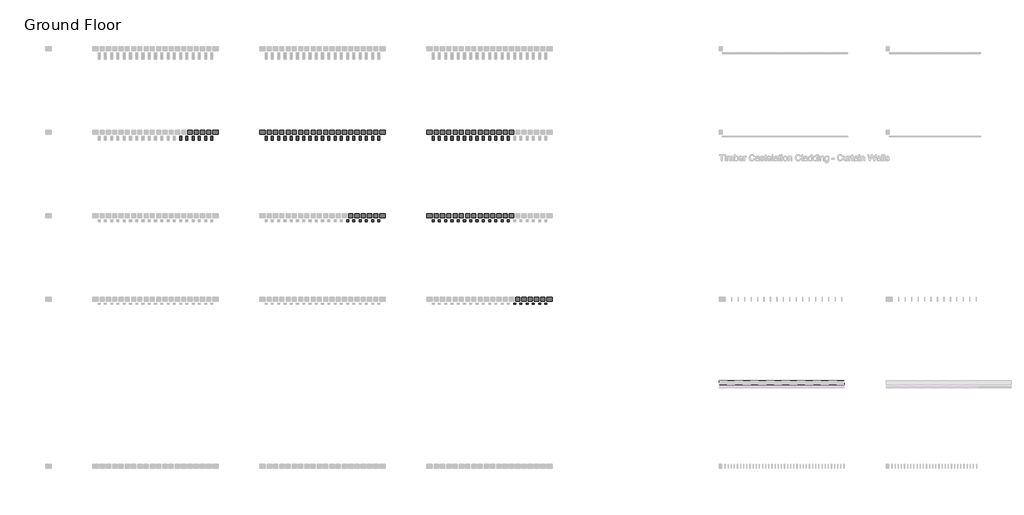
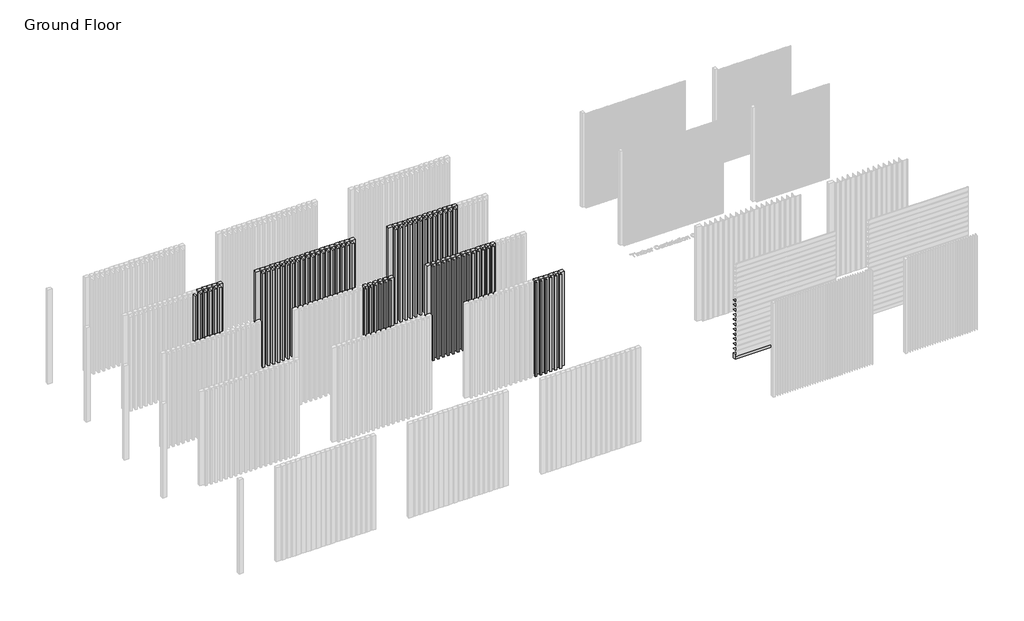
# One storey, part 19 of 350: 77 plates, 63 members.
"""IFC4 building model written with IfcOpenShell, lengths in millimetres."""

from ifc_helpers import new_model, si_unit, origin, place, context, project, spatial, transform, mapped, element, save
from components import rectangular_mullion_1e7650be, rectangular_mullion_e9fc8109, rectangular_mullion_114f6a8f, empty_system_panel_empty_02c6fd44, empty_system_panel_empty_a8601f27, empty_system_panel_empty_23ba90fe, empty_system_panel_empty_02e968fa, empty_system_panel_empty_b4bf5bb1

model = new_model("IFC4")

# Units and contexts
model_context = context("Model", 3, world=origin())
ifc_project = project(units=[si_unit("LENGTHUNIT", "METRE", prefix="MILLI")], contexts=[model_context])

# Site, building, storey
site = spatial("IfcSite", under=ifc_project)
building = spatial("IfcBuilding", under=site)
storey = spatial("IfcBuildingStorey", under=building, Name="Ground Floor", Elevation=0.0)

# Members
placement = place(None, origin())
rectangular_mullion_shape = rectangular_mullion_1e7650be(model_context)
element("IfcMember", 1, ObjectType="Rectangular Mullion : Batten_Aluminium_Modinex_AluBatten_50x50_TasmanianOak", at=placement, inside=storey, context=model_context, shape_type="MappedRepresentation", body=[
    mapped(rectangular_mullion_shape, transform((20016.4361642, 20968.2978302, 0.0), x_axis=(1.0, 0.0, 0.0), y_axis=(0.0, -1.0, 0.0), z_axis=(0.0, 0.0, -1.0))),
])
element("IfcMember", 2, ObjectType="Rectangular Mullion : Batten_Aluminium_Modinex_AluBatten_50x50_TasmanianOak", at=placement, inside=storey, context=model_context, shape_type="MappedRepresentation", body=[
    mapped(rectangular_mullion_shape, transform((20166.4361642, 20968.2978302, 0.0), x_axis=(1.0, 0.0, 0.0), y_axis=(0.0, -1.0, 0.0), z_axis=(0.0, 0.0, -1.0))),
])
element("IfcMember", 3, ObjectType="Rectangular Mullion : Batten_Aluminium_Modinex_AluBatten_50x50_TasmanianOak", at=placement, inside=storey, context=model_context, shape_type="MappedRepresentation", body=[
    mapped(rectangular_mullion_shape, transform((20316.4361642, 20968.2978302, 0.0), x_axis=(1.0, 0.0, 0.0), y_axis=(0.0, -1.0, 0.0), z_axis=(0.0, 0.0, -1.0))),
])
element("IfcMember", 4, ObjectType="Rectangular Mullion : Batten_Aluminium_Modinex_AluBatten_50x50_TasmanianOak", at=placement, inside=storey, context=model_context, shape_type="MappedRepresentation", body=[
    mapped(rectangular_mullion_shape, transform((20466.4361642, 20968.2978302, 0.0), x_axis=(1.0, 0.0, 0.0), y_axis=(0.0, -1.0, 0.0), z_axis=(0.0, 0.0, -1.0))),
])
element("IfcMember", 5, ObjectType="Rectangular Mullion : Batten_Aluminium_Modinex_AluBatten_50x50_TasmanianOak", at=placement, inside=storey, context=model_context, shape_type="MappedRepresentation", body=[
    mapped(rectangular_mullion_shape, transform((20616.4361642, 20968.2978302, 0.0), x_axis=(1.0, 0.0, 0.0), y_axis=(0.0, -1.0, 0.0), z_axis=(0.0, 0.0, -1.0))),
])
element("IfcMember", 6, ObjectType="Rectangular Mullion : Batten_Aluminium_Modinex_AluBatten_50x50_TasmanianOak", at=placement, inside=storey, context=model_context, shape_type="MappedRepresentation", body=[
    mapped(rectangular_mullion_shape, transform((20766.4361642, 20968.2978302, 0.0), x_axis=(1.0, 0.0, 0.0), y_axis=(0.0, -1.0, 0.0), z_axis=(0.0, 0.0, -1.0))),
])
rectangular_mullion_2_shape = rectangular_mullion_e9fc8109(model_context)
element("IfcMember", 7, ObjectType="Rectangular Mullion : Batten_Aluminium_Modinex_AluBatten_50x100_SpottedGum", at=placement, inside=storey, context=model_context, shape_type="MappedRepresentation", body=[
    mapped(rectangular_mullion_2_shape, transform((16016.4361642, 22968.2978302, 0.0), x_axis=(1.0, 0.0, 0.0), y_axis=(0.0, -1.0, 0.0), z_axis=(0.0, 0.0, -1.0))),
])
element("IfcMember", 8, ObjectType="Rectangular Mullion : Batten_Aluminium_Modinex_AluBatten_50x100_SpottedGum", at=placement, inside=storey, context=model_context, shape_type="MappedRepresentation", body=[
    mapped(rectangular_mullion_2_shape, transform((16166.4361642, 22968.2978302, 0.0), x_axis=(1.0, 0.0, 0.0), y_axis=(0.0, -1.0, 0.0), z_axis=(0.0, 0.0, -1.0))),
])
element("IfcMember", 9, ObjectType="Rectangular Mullion : Batten_Aluminium_Modinex_AluBatten_50x100_SpottedGum", at=placement, inside=storey, context=model_context, shape_type="MappedRepresentation", body=[
    mapped(rectangular_mullion_2_shape, transform((16316.4361642, 22968.2978302, 0.0), x_axis=(1.0, 0.0, 0.0), y_axis=(0.0, -1.0, 0.0), z_axis=(0.0, 0.0, -1.0))),
])
element("IfcMember", 10, ObjectType="Rectangular Mullion : Batten_Aluminium_Modinex_AluBatten_50x100_SpottedGum", at=placement, inside=storey, context=model_context, shape_type="MappedRepresentation", body=[
    mapped(rectangular_mullion_2_shape, transform((16466.4361642, 22968.2978302, 0.0), x_axis=(1.0, 0.0, 0.0), y_axis=(0.0, -1.0, 0.0), z_axis=(0.0, 0.0, -1.0))),
])
element("IfcMember", 11, ObjectType="Rectangular Mullion : Batten_Aluminium_Modinex_AluBatten_50x100_SpottedGum", at=placement, inside=storey, context=model_context, shape_type="MappedRepresentation", body=[
    mapped(rectangular_mullion_2_shape, transform((16616.4361642, 22968.2978302, 0.0), x_axis=(1.0, 0.0, 0.0), y_axis=(0.0, -1.0, 0.0), z_axis=(0.0, 0.0, -1.0))),
])
element("IfcMember", 12, ObjectType="Rectangular Mullion : Batten_Aluminium_Modinex_AluBatten_50x100_SpottedGum", at=placement, inside=storey, context=model_context, shape_type="MappedRepresentation", body=[
    mapped(rectangular_mullion_2_shape, transform((16766.4361642, 22968.2978302, 0.0), x_axis=(1.0, 0.0, 0.0), y_axis=(0.0, -1.0, 0.0), z_axis=(0.0, 0.0, -1.0))),
])
element("IfcMember", 13, ObjectType="Rectangular Mullion : Batten_Aluminium_Modinex_AluBatten_50x100_TasmanianOak", at=placement, inside=storey, context=model_context, shape_type="MappedRepresentation", body=[
    mapped(rectangular_mullion_2_shape, transform((18066.4361642, 22968.2978302, 0.0), x_axis=(1.0, 0.0, 0.0), y_axis=(0.0, -1.0, 0.0), z_axis=(0.0, 0.0, -1.0))),
])
element("IfcMember", 14, ObjectType="Rectangular Mullion : Batten_Aluminium_Modinex_AluBatten_50x100_TasmanianOak", at=placement, inside=storey, context=model_context, shape_type="MappedRepresentation", body=[
    mapped(rectangular_mullion_2_shape, transform((18216.4361642, 22968.2978302, 0.0), x_axis=(1.0, 0.0, 0.0), y_axis=(0.0, -1.0, 0.0), z_axis=(0.0, 0.0, -1.0))),
])
element("IfcMember", 15, ObjectType="Rectangular Mullion : Batten_Aluminium_Modinex_AluBatten_50x100_TasmanianOak", at=placement, inside=storey, context=model_context, shape_type="MappedRepresentation", body=[
    mapped(rectangular_mullion_2_shape, transform((18366.4361642, 22968.2978302, 0.0), x_axis=(1.0, 0.0, 0.0), y_axis=(0.0, -1.0, 0.0), z_axis=(0.0, 0.0, -1.0))),
])
element("IfcMember", 16, ObjectType="Rectangular Mullion : Batten_Aluminium_Modinex_AluBatten_50x100_TasmanianOak", at=placement, inside=storey, context=model_context, shape_type="MappedRepresentation", body=[
    mapped(rectangular_mullion_2_shape, transform((18516.4361642, 22968.2978302, 0.0), x_axis=(1.0, 0.0, 0.0), y_axis=(0.0, -1.0, 0.0), z_axis=(0.0, 0.0, -1.0))),
])
element("IfcMember", 17, ObjectType="Rectangular Mullion : Batten_Aluminium_Modinex_AluBatten_50x100_TasmanianOak", at=placement, inside=storey, context=model_context, shape_type="MappedRepresentation", body=[
    mapped(rectangular_mullion_2_shape, transform((18666.4361642, 22968.2978302, 0.0), x_axis=(1.0, 0.0, 0.0), y_axis=(0.0, -1.0, 0.0), z_axis=(0.0, 0.0, -1.0))),
])
element("IfcMember", 18, ObjectType="Rectangular Mullion : Batten_Aluminium_Modinex_AluBatten_50x100_TasmanianOak", at=placement, inside=storey, context=model_context, shape_type="MappedRepresentation", body=[
    mapped(rectangular_mullion_2_shape, transform((18816.4361642, 22968.2978302, 0.0), x_axis=(1.0, 0.0, 0.0), y_axis=(0.0, -1.0, 0.0), z_axis=(0.0, 0.0, -1.0))),
])
element("IfcMember", 19, ObjectType="Rectangular Mullion : Batten_Aluminium_Modinex_AluBatten_50x100_TasmanianOak", at=placement, inside=storey, context=model_context, shape_type="MappedRepresentation", body=[
    mapped(rectangular_mullion_2_shape, transform((18966.4361642, 22968.2978302, 0.0), x_axis=(1.0, 0.0, 0.0), y_axis=(0.0, -1.0, 0.0), z_axis=(0.0, 0.0, -1.0))),
])
element("IfcMember", 20, ObjectType="Rectangular Mullion : Batten_Aluminium_Modinex_AluBatten_50x100_TasmanianOak", at=placement, inside=storey, context=model_context, shape_type="MappedRepresentation", body=[
    mapped(rectangular_mullion_2_shape, transform((19116.4361642, 22968.2978302, 0.0), x_axis=(1.0, 0.0, 0.0), y_axis=(0.0, -1.0, 0.0), z_axis=(0.0, 0.0, -1.0))),
])
element("IfcMember", 21, ObjectType="Rectangular Mullion : Batten_Aluminium_Modinex_AluBatten_50x100_TasmanianOak", at=placement, inside=storey, context=model_context, shape_type="MappedRepresentation", body=[
    mapped(rectangular_mullion_2_shape, transform((19266.4361642, 22968.2978302, 0.0), x_axis=(1.0, 0.0, 0.0), y_axis=(0.0, -1.0, 0.0), z_axis=(0.0, 0.0, -1.0))),
])
element("IfcMember", 22, ObjectType="Rectangular Mullion : Batten_Aluminium_Modinex_AluBatten_50x100_TasmanianOak", at=placement, inside=storey, context=model_context, shape_type="MappedRepresentation", body=[
    mapped(rectangular_mullion_2_shape, transform((19416.4361642, 22968.2978302, 0.0), x_axis=(1.0, 0.0, 0.0), y_axis=(0.0, -1.0, 0.0), z_axis=(0.0, 0.0, -1.0))),
])
element("IfcMember", 23, ObjectType="Rectangular Mullion : Batten_Aluminium_Modinex_AluBatten_50x100_TasmanianOak", at=placement, inside=storey, context=model_context, shape_type="MappedRepresentation", body=[
    mapped(rectangular_mullion_2_shape, transform((19566.4361642, 22968.2978302, 0.0), x_axis=(1.0, 0.0, 0.0), y_axis=(0.0, -1.0, 0.0), z_axis=(0.0, 0.0, -1.0))),
])
element("IfcMember", 24, ObjectType="Rectangular Mullion : Batten_Aluminium_Modinex_AluBatten_50x100_TasmanianOak", at=placement, inside=storey, context=model_context, shape_type="MappedRepresentation", body=[
    mapped(rectangular_mullion_2_shape, transform((19716.4361642, 22968.2978302, 0.0), x_axis=(1.0, 0.0, 0.0), y_axis=(0.0, -1.0, 0.0), z_axis=(0.0, 0.0, -1.0))),
])
element("IfcMember", 25, ObjectType="Rectangular Mullion : Batten_Aluminium_Modinex_AluBatten_50x100_TasmanianOak", at=placement, inside=storey, context=model_context, shape_type="MappedRepresentation", body=[
    mapped(rectangular_mullion_2_shape, transform((19866.4361642, 22968.2978302, 0.0), x_axis=(1.0, 0.0, 0.0), y_axis=(0.0, -1.0, 0.0), z_axis=(0.0, 0.0, -1.0))),
])
element("IfcMember", 26, ObjectType="Rectangular Mullion : Batten_Aluminium_Modinex_AluBatten_50x100_TasmanianOak", at=placement, inside=storey, context=model_context, shape_type="MappedRepresentation", body=[
    mapped(rectangular_mullion_2_shape, transform((20016.4361642, 22968.2978302, 0.0), x_axis=(1.0, 0.0, 0.0), y_axis=(0.0, -1.0, 0.0), z_axis=(0.0, 0.0, -1.0))),
])
element("IfcMember", 27, ObjectType="Rectangular Mullion : Batten_Aluminium_Modinex_AluBatten_50x100_TasmanianOak", at=placement, inside=storey, context=model_context, shape_type="MappedRepresentation", body=[
    mapped(rectangular_mullion_2_shape, transform((20166.4361642, 22968.2978302, 0.0), x_axis=(1.0, 0.0, 0.0), y_axis=(0.0, -1.0, 0.0), z_axis=(0.0, 0.0, -1.0))),
])
element("IfcMember", 28, ObjectType="Rectangular Mullion : Batten_Aluminium_Modinex_AluBatten_50x100_TasmanianOak", at=placement, inside=storey, context=model_context, shape_type="MappedRepresentation", body=[
    mapped(rectangular_mullion_2_shape, transform((20316.4361642, 22968.2978302, 0.0), x_axis=(1.0, 0.0, 0.0), y_axis=(0.0, -1.0, 0.0), z_axis=(0.0, 0.0, -1.0))),
])
element("IfcMember", 29, ObjectType="Rectangular Mullion : Batten_Aluminium_Modinex_AluBatten_50x100_TasmanianOak", at=placement, inside=storey, context=model_context, shape_type="MappedRepresentation", body=[
    mapped(rectangular_mullion_2_shape, transform((20466.4361642, 22968.2978302, 0.0), x_axis=(1.0, 0.0, 0.0), y_axis=(0.0, -1.0, 0.0), z_axis=(0.0, 0.0, -1.0))),
])
element("IfcMember", 30, ObjectType="Rectangular Mullion : Batten_Aluminium_Modinex_AluBatten_50x100_TasmanianOak", at=placement, inside=storey, context=model_context, shape_type="MappedRepresentation", body=[
    mapped(rectangular_mullion_2_shape, transform((20616.4361642, 22968.2978302, 0.0), x_axis=(1.0, 0.0, 0.0), y_axis=(0.0, -1.0, 0.0), z_axis=(0.0, 0.0, -1.0))),
])
element("IfcMember", 31, ObjectType="Rectangular Mullion : Batten_Aluminium_Modinex_AluBatten_50x100_TasmanianOak", at=placement, inside=storey, context=model_context, shape_type="MappedRepresentation", body=[
    mapped(rectangular_mullion_2_shape, transform((20766.4361642, 22968.2978302, 0.0), x_axis=(1.0, 0.0, 0.0), y_axis=(0.0, -1.0, 0.0), z_axis=(0.0, 0.0, -1.0))),
])
rectangular_mullion_3_shape = rectangular_mullion_114f6a8f(model_context)
element("IfcMember", 32, ObjectType="Rectangular Mullion : Batten_Aluminium_Modinex_AluBatten_50x25_WhiteOak", at=placement, inside=storey, context=model_context, shape_type="MappedRepresentation", body=[
    mapped(rectangular_mullion_3_shape, transform((24016.4361642, 18968.2978302, 0.0), x_axis=(1.0, 0.0, 0.0), y_axis=(0.0, -1.0, 0.0), z_axis=(0.0, 0.0, -1.0))),
])
element("IfcMember", 33, ObjectType="Rectangular Mullion : Batten_Aluminium_Modinex_AluBatten_50x25_WhiteOak", at=placement, inside=storey, context=model_context, shape_type="MappedRepresentation", body=[
    mapped(rectangular_mullion_3_shape, transform((24166.4361642, 18968.2978302, 0.0), x_axis=(1.0, 0.0, 0.0), y_axis=(0.0, -1.0, 0.0), z_axis=(0.0, 0.0, -1.0))),
])
element("IfcMember", 34, ObjectType="Rectangular Mullion : Batten_Aluminium_Modinex_AluBatten_50x25_WhiteOak", at=placement, inside=storey, context=model_context, shape_type="MappedRepresentation", body=[
    mapped(rectangular_mullion_3_shape, transform((24316.4361642, 18968.2978302, 0.0), x_axis=(1.0, 0.0, 0.0), y_axis=(0.0, -1.0, 0.0), z_axis=(0.0, 0.0, -1.0))),
])
element("IfcMember", 35, ObjectType="Rectangular Mullion : Batten_Aluminium_Modinex_AluBatten_50x25_WhiteOak", at=placement, inside=storey, context=model_context, shape_type="MappedRepresentation", body=[
    mapped(rectangular_mullion_3_shape, transform((24466.4361642, 18968.2978302, 0.0), x_axis=(1.0, 0.0, 0.0), y_axis=(0.0, -1.0, 0.0), z_axis=(0.0, 0.0, -1.0))),
])
element("IfcMember", 36, ObjectType="Rectangular Mullion : Batten_Aluminium_Modinex_AluBatten_50x25_WhiteOak", at=placement, inside=storey, context=model_context, shape_type="MappedRepresentation", body=[
    mapped(rectangular_mullion_3_shape, transform((24616.4361642, 18968.2978302, 0.0), x_axis=(1.0, 0.0, 0.0), y_axis=(0.0, -1.0, 0.0), z_axis=(0.0, 0.0, -1.0))),
])
element("IfcMember", 37, ObjectType="Rectangular Mullion : Batten_Aluminium_Modinex_AluBatten_50x25_WhiteOak", at=placement, inside=storey, context=model_context, shape_type="MappedRepresentation", body=[
    mapped(rectangular_mullion_3_shape, transform((24766.4361642, 18968.2978302, 0.0), x_axis=(1.0, 0.0, 0.0), y_axis=(0.0, -1.0, 0.0), z_axis=(0.0, 0.0, -1.0))),
])
element("IfcMember", 38, ObjectType="Rectangular Mullion : Batten_Aluminium_Modinex_AluBatten_50x50_WhiteOak", at=placement, inside=storey, context=model_context, shape_type="MappedRepresentation", body=[
    mapped(rectangular_mullion_shape, transform((22066.4361642, 20968.2978302, 0.0), x_axis=(1.0, 0.0, 0.0), y_axis=(0.0, -1.0, 0.0), z_axis=(0.0, 0.0, -1.0))),
])
element("IfcMember", 39, ObjectType="Rectangular Mullion : Batten_Aluminium_Modinex_AluBatten_50x50_WhiteOak", at=placement, inside=storey, context=model_context, shape_type="MappedRepresentation", body=[
    mapped(rectangular_mullion_shape, transform((22216.4361642, 20968.2978302, 0.0), x_axis=(1.0, 0.0, 0.0), y_axis=(0.0, -1.0, 0.0), z_axis=(0.0, 0.0, -1.0))),
])
element("IfcMember", 40, ObjectType="Rectangular Mullion : Batten_Aluminium_Modinex_AluBatten_50x50_WhiteOak", at=placement, inside=storey, context=model_context, shape_type="MappedRepresentation", body=[
    mapped(rectangular_mullion_shape, transform((22366.4361642, 20968.2978302, 0.0), x_axis=(1.0, 0.0, 0.0), y_axis=(0.0, -1.0, 0.0), z_axis=(0.0, 0.0, -1.0))),
])
element("IfcMember", 41, ObjectType="Rectangular Mullion : Batten_Aluminium_Modinex_AluBatten_50x50_WhiteOak", at=placement, inside=storey, context=model_context, shape_type="MappedRepresentation", body=[
    mapped(rectangular_mullion_shape, transform((22516.4361642, 20968.2978302, 0.0), x_axis=(1.0, 0.0, 0.0), y_axis=(0.0, -1.0, 0.0), z_axis=(0.0, 0.0, -1.0))),
])
element("IfcMember", 42, ObjectType="Rectangular Mullion : Batten_Aluminium_Modinex_AluBatten_50x50_WhiteOak", at=placement, inside=storey, context=model_context, shape_type="MappedRepresentation", body=[
    mapped(rectangular_mullion_shape, transform((22666.4361642, 20968.2978302, 0.0), x_axis=(1.0, 0.0, 0.0), y_axis=(0.0, -1.0, 0.0), z_axis=(0.0, 0.0, -1.0))),
])
element("IfcMember", 43, ObjectType="Rectangular Mullion : Batten_Aluminium_Modinex_AluBatten_50x50_WhiteOak", at=placement, inside=storey, context=model_context, shape_type="MappedRepresentation", body=[
    mapped(rectangular_mullion_shape, transform((22816.4361642, 20968.2978302, 0.0), x_axis=(1.0, 0.0, 0.0), y_axis=(0.0, -1.0, 0.0), z_axis=(0.0, 0.0, -1.0))),
])
element("IfcMember", 44, ObjectType="Rectangular Mullion : Batten_Aluminium_Modinex_AluBatten_50x50_WhiteOak", at=placement, inside=storey, context=model_context, shape_type="MappedRepresentation", body=[
    mapped(rectangular_mullion_shape, transform((22966.4361642, 20968.2978302, 0.0), x_axis=(1.0, 0.0, 0.0), y_axis=(0.0, -1.0, 0.0), z_axis=(0.0, 0.0, -1.0))),
])
element("IfcMember", 45, ObjectType="Rectangular Mullion : Batten_Aluminium_Modinex_AluBatten_50x50_WhiteOak", at=placement, inside=storey, context=model_context, shape_type="MappedRepresentation", body=[
    mapped(rectangular_mullion_shape, transform((23116.4361642, 20968.2978302, 0.0), x_axis=(1.0, 0.0, 0.0), y_axis=(0.0, -1.0, 0.0), z_axis=(0.0, 0.0, -1.0))),
])
element("IfcMember", 46, ObjectType="Rectangular Mullion : Batten_Aluminium_Modinex_AluBatten_50x50_WhiteOak", at=placement, inside=storey, context=model_context, shape_type="MappedRepresentation", body=[
    mapped(rectangular_mullion_shape, transform((23266.4361642, 20968.2978302, 0.0), x_axis=(1.0, 0.0, 0.0), y_axis=(0.0, -1.0, 0.0), z_axis=(0.0, 0.0, -1.0))),
])
element("IfcMember", 47, ObjectType="Rectangular Mullion : Batten_Aluminium_Modinex_AluBatten_50x50_WhiteOak", at=placement, inside=storey, context=model_context, shape_type="MappedRepresentation", body=[
    mapped(rectangular_mullion_shape, transform((23416.4361642, 20968.2978302, 0.0), x_axis=(1.0, 0.0, 0.0), y_axis=(0.0, -1.0, 0.0), z_axis=(0.0, 0.0, -1.0))),
])
element("IfcMember", 48, ObjectType="Rectangular Mullion : Batten_Aluminium_Modinex_AluBatten_50x50_WhiteOak", at=placement, inside=storey, context=model_context, shape_type="MappedRepresentation", body=[
    mapped(rectangular_mullion_shape, transform((23566.4361642, 20968.2978302, 0.0), x_axis=(1.0, 0.0, 0.0), y_axis=(0.0, -1.0, 0.0), z_axis=(0.0, 0.0, -1.0))),
])
element("IfcMember", 49, ObjectType="Rectangular Mullion : Batten_Aluminium_Modinex_AluBatten_50x50_WhiteOak", at=placement, inside=storey, context=model_context, shape_type="MappedRepresentation", body=[
    mapped(rectangular_mullion_shape, transform((23716.4361642, 20968.2978302, 0.0), x_axis=(1.0, 0.0, 0.0), y_axis=(0.0, -1.0, 0.0), z_axis=(0.0, 0.0, -1.0))),
])
element("IfcMember", 50, ObjectType="Rectangular Mullion : Batten_Aluminium_Modinex_AluBatten_50x50_WhiteOak", at=placement, inside=storey, context=model_context, shape_type="MappedRepresentation", body=[
    mapped(rectangular_mullion_shape, transform((23866.4361642, 20968.2978302, 0.0), x_axis=(1.0, 0.0, 0.0), y_axis=(0.0, -1.0, 0.0), z_axis=(0.0, 0.0, -1.0))),
])
element("IfcMember", 51, ObjectType="Rectangular Mullion : Batten_Aluminium_Modinex_AluBatten_50x100_WhiteOak", at=placement, inside=storey, context=model_context, shape_type="MappedRepresentation", body=[
    mapped(rectangular_mullion_2_shape, transform((22066.4361642, 22968.2978302, 0.0), x_axis=(1.0, 0.0, 0.0), y_axis=(0.0, -1.0, 0.0), z_axis=(0.0, 0.0, -1.0))),
])
element("IfcMember", 52, ObjectType="Rectangular Mullion : Batten_Aluminium_Modinex_AluBatten_50x100_WhiteOak", at=placement, inside=storey, context=model_context, shape_type="MappedRepresentation", body=[
    mapped(rectangular_mullion_2_shape, transform((22216.4361642, 22968.2978302, 0.0), x_axis=(1.0, 0.0, 0.0), y_axis=(0.0, -1.0, 0.0), z_axis=(0.0, 0.0, -1.0))),
])
element("IfcMember", 53, ObjectType="Rectangular Mullion : Batten_Aluminium_Modinex_AluBatten_50x100_WhiteOak", at=placement, inside=storey, context=model_context, shape_type="MappedRepresentation", body=[
    mapped(rectangular_mullion_2_shape, transform((22366.4361642, 22968.2978302, 0.0), x_axis=(1.0, 0.0, 0.0), y_axis=(0.0, -1.0, 0.0), z_axis=(0.0, 0.0, -1.0))),
])
element("IfcMember", 54, ObjectType="Rectangular Mullion : Batten_Aluminium_Modinex_AluBatten_50x100_WhiteOak", at=placement, inside=storey, context=model_context, shape_type="MappedRepresentation", body=[
    mapped(rectangular_mullion_2_shape, transform((22516.4361642, 22968.2978302, 0.0), x_axis=(1.0, 0.0, 0.0), y_axis=(0.0, -1.0, 0.0), z_axis=(0.0, 0.0, -1.0))),
])
element("IfcMember", 55, ObjectType="Rectangular Mullion : Batten_Aluminium_Modinex_AluBatten_50x100_WhiteOak", at=placement, inside=storey, context=model_context, shape_type="MappedRepresentation", body=[
    mapped(rectangular_mullion_2_shape, transform((22666.4361642, 22968.2978302, 0.0), x_axis=(1.0, 0.0, 0.0), y_axis=(0.0, -1.0, 0.0), z_axis=(0.0, 0.0, -1.0))),
])
element("IfcMember", 56, ObjectType="Rectangular Mullion : Batten_Aluminium_Modinex_AluBatten_50x100_WhiteOak", at=placement, inside=storey, context=model_context, shape_type="MappedRepresentation", body=[
    mapped(rectangular_mullion_2_shape, transform((22816.4361642, 22968.2978302, 0.0), x_axis=(1.0, 0.0, 0.0), y_axis=(0.0, -1.0, 0.0), z_axis=(0.0, 0.0, -1.0))),
])
element("IfcMember", 57, ObjectType="Rectangular Mullion : Batten_Aluminium_Modinex_AluBatten_50x100_WhiteOak", at=placement, inside=storey, context=model_context, shape_type="MappedRepresentation", body=[
    mapped(rectangular_mullion_2_shape, transform((22966.4361642, 22968.2978302, 0.0), x_axis=(1.0, 0.0, 0.0), y_axis=(0.0, -1.0, 0.0), z_axis=(0.0, 0.0, -1.0))),
])
element("IfcMember", 58, ObjectType="Rectangular Mullion : Batten_Aluminium_Modinex_AluBatten_50x100_WhiteOak", at=placement, inside=storey, context=model_context, shape_type="MappedRepresentation", body=[
    mapped(rectangular_mullion_2_shape, transform((23116.4361642, 22968.2978302, 0.0), x_axis=(1.0, 0.0, 0.0), y_axis=(0.0, -1.0, 0.0), z_axis=(0.0, 0.0, -1.0))),
])
element("IfcMember", 59, ObjectType="Rectangular Mullion : Batten_Aluminium_Modinex_AluBatten_50x100_WhiteOak", at=placement, inside=storey, context=model_context, shape_type="MappedRepresentation", body=[
    mapped(rectangular_mullion_2_shape, transform((23266.4361642, 22968.2978302, 0.0), x_axis=(1.0, 0.0, 0.0), y_axis=(0.0, -1.0, 0.0), z_axis=(0.0, 0.0, -1.0))),
])
element("IfcMember", 60, ObjectType="Rectangular Mullion : Batten_Aluminium_Modinex_AluBatten_50x100_WhiteOak", at=placement, inside=storey, context=model_context, shape_type="MappedRepresentation", body=[
    mapped(rectangular_mullion_2_shape, transform((23416.4361642, 22968.2978302, 0.0), x_axis=(1.0, 0.0, 0.0), y_axis=(0.0, -1.0, 0.0), z_axis=(0.0, 0.0, -1.0))),
])
element("IfcMember", 61, ObjectType="Rectangular Mullion : Batten_Aluminium_Modinex_AluBatten_50x100_WhiteOak", at=placement, inside=storey, context=model_context, shape_type="MappedRepresentation", body=[
    mapped(rectangular_mullion_2_shape, transform((23566.4361642, 22968.2978302, 0.0), x_axis=(1.0, 0.0, 0.0), y_axis=(0.0, -1.0, 0.0), z_axis=(0.0, 0.0, -1.0))),
])
element("IfcMember", 62, ObjectType="Rectangular Mullion : Batten_Aluminium_Modinex_AluBatten_50x100_WhiteOak", at=placement, inside=storey, context=model_context, shape_type="MappedRepresentation", body=[
    mapped(rectangular_mullion_2_shape, transform((23716.4361642, 22968.2978302, 0.0), x_axis=(1.0, 0.0, 0.0), y_axis=(0.0, -1.0, 0.0), z_axis=(0.0, 0.0, -1.0))),
])
element("IfcMember", 63, ObjectType="Rectangular Mullion : Batten_Aluminium_Modinex_AluBatten_50x100_WhiteOak", at=placement, inside=storey, context=model_context, shape_type="MappedRepresentation", body=[
    mapped(rectangular_mullion_2_shape, transform((23866.4361642, 22968.2978302, 0.0), x_axis=(1.0, 0.0, 0.0), y_axis=(0.0, -1.0, 0.0), z_axis=(0.0, 0.0, -1.0))),
])

# Plates
empty_system_panel_empty_shape = empty_system_panel_empty_02c6fd44(model_context)
element("IfcPlate", 64, ObjectType="Empty System Panel : Empty", at=placement, inside=storey, context=model_context, shape_type="MappedRepresentation", body=[
    mapped(empty_system_panel_empty_shape, transform((30416.4361639, 16968.2978302, 297.2580963), x_axis=(1.0, 0.0, 0.0), y_axis=(0.0, 1.0, 0.0), z_axis=(0.0, 0.0, 1.0))),
])
element("IfcPlate", 65, ObjectType="Empty System Panel : Empty", at=placement, inside=storey, context=model_context, shape_type="MappedRepresentation", body=[
    mapped(empty_system_panel_empty_shape, transform((30416.4361639, 16968.2978302, 452.2580963), x_axis=(1.0, 0.0, 0.0), y_axis=(0.0, 1.0, 0.0), z_axis=(0.0, 0.0, 1.0))),
])
element("IfcPlate", 66, ObjectType="Empty System Panel : Empty", at=placement, inside=storey, context=model_context, shape_type="MappedRepresentation", body=[
    mapped(empty_system_panel_empty_shape, transform((30416.4361639, 16968.2978302, 607.2580963), x_axis=(1.0, 0.0, 0.0), y_axis=(0.0, 1.0, 0.0), z_axis=(0.0, 0.0, 1.0))),
])
element("IfcPlate", 67, ObjectType="Empty System Panel : Empty", at=placement, inside=storey, context=model_context, shape_type="MappedRepresentation", body=[
    mapped(empty_system_panel_empty_shape, transform((30416.4361639, 16968.2978302, 762.2580963), x_axis=(1.0, 0.0, 0.0), y_axis=(0.0, 1.0, 0.0), z_axis=(0.0, 0.0, 1.0))),
])
element("IfcPlate", 68, ObjectType="Empty System Panel : Empty", at=placement, inside=storey, context=model_context, shape_type="MappedRepresentation", body=[
    mapped(empty_system_panel_empty_shape, transform((30416.4361639, 16968.2978302, 917.2580963), x_axis=(1.0, 0.0, 0.0), y_axis=(0.0, 1.0, 0.0), z_axis=(0.0, 0.0, 1.0))),
])
element("IfcPlate", 69, ObjectType="Empty System Panel : Empty", at=placement, inside=storey, context=model_context, shape_type="MappedRepresentation", body=[
    mapped(empty_system_panel_empty_shape, transform((30416.4361639, 16968.2978302, 1072.2580963), x_axis=(1.0, 0.0, 0.0), y_axis=(0.0, 1.0, 0.0), z_axis=(0.0, 0.0, 1.0))),
])
element("IfcPlate", 70, ObjectType="Empty System Panel : Empty", at=placement, inside=storey, context=model_context, shape_type="MappedRepresentation", body=[
    mapped(empty_system_panel_empty_shape, transform((30416.4361639, 16968.2978302, 1227.2580963), x_axis=(1.0, 0.0, 0.0), y_axis=(0.0, 1.0, 0.0), z_axis=(0.0, 0.0, 1.0))),
])
element("IfcPlate", 71, ObjectType="Empty System Panel : Empty", at=placement, inside=storey, context=model_context, shape_type="MappedRepresentation", body=[
    mapped(empty_system_panel_empty_shape, transform((30416.4361639, 16968.2978302, 1382.2580963), x_axis=(1.0, 0.0, 0.0), y_axis=(0.0, 1.0, 0.0), z_axis=(0.0, 0.0, 1.0))),
])
element("IfcPlate", 72, ObjectType="Empty System Panel : Empty", at=placement, inside=storey, context=model_context, shape_type="MappedRepresentation", body=[
    mapped(empty_system_panel_empty_shape, transform((30416.4361639, 16968.2978302, 1537.2580963), x_axis=(1.0, 0.0, 0.0), y_axis=(0.0, 1.0, 0.0), z_axis=(0.0, 0.0, 1.0))),
])
element("IfcPlate", 73, ObjectType="Empty System Panel : Empty", at=placement, inside=storey, context=model_context, shape_type="MappedRepresentation", body=[
    mapped(empty_system_panel_empty_shape, transform((30416.4361639, 16968.2978302, 1692.2580963), x_axis=(1.0, 0.0, 0.0), y_axis=(0.0, 1.0, 0.0), z_axis=(0.0, 0.0, 1.0))),
])
element("IfcPlate", 74, ObjectType="Empty System Panel : Empty", at=placement, inside=storey, context=model_context, shape_type="MappedRepresentation", body=[
    mapped(empty_system_panel_empty_shape, transform((30416.4361639, 16968.2978302, 1847.2580963), x_axis=(1.0, 0.0, 0.0), y_axis=(0.0, 1.0, 0.0), z_axis=(0.0, 0.0, 1.0))),
])
empty_system_panel_empty_2_shape = empty_system_panel_empty_a8601f27(model_context)
element("IfcPlate", 75, ObjectType="Empty System Panel : Empty", at=placement, inside=storey, context=model_context, shape_type="MappedRepresentation", body=[
    mapped(empty_system_panel_empty_2_shape, transform((17978.9361641, 22968.2978302, 0.0), x_axis=(1.0, 0.0, 0.0), y_axis=(0.0, 1.0, 0.0), z_axis=(0.0, 0.0, 1.0))),
])
element("IfcPlate", 76, ObjectType="Empty System Panel : Empty", at=placement, inside=storey, context=model_context, shape_type="MappedRepresentation", body=[
    mapped(empty_system_panel_empty_2_shape, transform((21978.9361641, 20968.2978302, 0.0), x_axis=(1.0, 0.0, 0.0), y_axis=(0.0, 1.0, 0.0), z_axis=(0.0, 0.0, 1.0))),
])
element("IfcPlate", 77, ObjectType="Empty System Panel : Empty", at=placement, inside=storey, context=model_context, shape_type="MappedRepresentation", body=[
    mapped(empty_system_panel_empty_2_shape, transform((21978.9361641, 22968.2978302, 0.0), x_axis=(1.0, 0.0, 0.0), y_axis=(0.0, 1.0, 0.0), z_axis=(0.0, 0.0, 1.0))),
])
empty_system_panel_empty_3_shape = empty_system_panel_empty_23ba90fe(model_context)
element("IfcPlate", 78, ObjectType="Empty System Panel : Empty", at=placement, inside=storey, context=model_context, shape_type="MappedRepresentation", body=[
    mapped(empty_system_panel_empty_3_shape, transform((20091.4361642, 20968.2978302, 0.0), x_axis=(1.0, 0.0, 0.0), y_axis=(0.0, 1.0, 0.0), z_axis=(0.0, 0.0, 1.0))),
])
element("IfcPlate", 79, ObjectType="Empty System Panel : Empty", at=placement, inside=storey, context=model_context, shape_type="MappedRepresentation", body=[
    mapped(empty_system_panel_empty_3_shape, transform((20241.4361642, 20968.2978302, 0.0), x_axis=(1.0, 0.0, 0.0), y_axis=(0.0, 1.0, 0.0), z_axis=(0.0, 0.0, 1.0))),
])
element("IfcPlate", 80, ObjectType="Empty System Panel : Empty", at=placement, inside=storey, context=model_context, shape_type="MappedRepresentation", body=[
    mapped(empty_system_panel_empty_3_shape, transform((20391.4361642, 20968.2978302, 0.0), x_axis=(1.0, 0.0, 0.0), y_axis=(0.0, 1.0, 0.0), z_axis=(0.0, 0.0, 1.0))),
])
element("IfcPlate", 81, ObjectType="Empty System Panel : Empty", at=placement, inside=storey, context=model_context, shape_type="MappedRepresentation", body=[
    mapped(empty_system_panel_empty_3_shape, transform((20541.4361642, 20968.2978302, 0.0), x_axis=(1.0, 0.0, 0.0), y_axis=(0.0, 1.0, 0.0), z_axis=(0.0, 0.0, 1.0))),
])
element("IfcPlate", 82, ObjectType="Empty System Panel : Empty", at=placement, inside=storey, context=model_context, shape_type="MappedRepresentation", body=[
    mapped(empty_system_panel_empty_3_shape, transform((20691.4361642, 20968.2978302, 0.0), x_axis=(1.0, 0.0, 0.0), y_axis=(0.0, 1.0, 0.0), z_axis=(0.0, 0.0, 1.0))),
])
element("IfcPlate", 83, ObjectType="Empty System Panel : Empty", at=placement, inside=storey, context=model_context, shape_type="MappedRepresentation", body=[
    mapped(empty_system_panel_empty_3_shape, transform((16241.4361642, 22968.2978302, 0.0), x_axis=(1.0, 0.0, 0.0), y_axis=(0.0, 1.0, 0.0), z_axis=(0.0, 0.0, 1.0))),
])
element("IfcPlate", 84, ObjectType="Empty System Panel : Empty", at=placement, inside=storey, context=model_context, shape_type="MappedRepresentation", body=[
    mapped(empty_system_panel_empty_3_shape, transform((16391.4361642, 22968.2978302, 0.0), x_axis=(1.0, 0.0, 0.0), y_axis=(0.0, 1.0, 0.0), z_axis=(0.0, 0.0, 1.0))),
])
element("IfcPlate", 85, ObjectType="Empty System Panel : Empty", at=placement, inside=storey, context=model_context, shape_type="MappedRepresentation", body=[
    mapped(empty_system_panel_empty_3_shape, transform((16541.4361642, 22968.2978302, 0.0), x_axis=(1.0, 0.0, 0.0), y_axis=(0.0, 1.0, 0.0), z_axis=(0.0, 0.0, 1.0))),
])
element("IfcPlate", 86, ObjectType="Empty System Panel : Empty", at=placement, inside=storey, context=model_context, shape_type="MappedRepresentation", body=[
    mapped(empty_system_panel_empty_3_shape, transform((16691.4361642, 22968.2978302, 0.0), x_axis=(1.0, 0.0, 0.0), y_axis=(0.0, 1.0, 0.0), z_axis=(0.0, 0.0, 1.0))),
])
element("IfcPlate", 87, ObjectType="Empty System Panel : Empty", at=placement, inside=storey, context=model_context, shape_type="MappedRepresentation", body=[
    mapped(empty_system_panel_empty_3_shape, transform((18141.4361642, 22968.2978302, 0.0), x_axis=(1.0, 0.0, 0.0), y_axis=(0.0, 1.0, 0.0), z_axis=(0.0, 0.0, 1.0))),
])
element("IfcPlate", 88, ObjectType="Empty System Panel : Empty", at=placement, inside=storey, context=model_context, shape_type="MappedRepresentation", body=[
    mapped(empty_system_panel_empty_3_shape, transform((18291.4361642, 22968.2978302, 0.0), x_axis=(1.0, 0.0, 0.0), y_axis=(0.0, 1.0, 0.0), z_axis=(0.0, 0.0, 1.0))),
])
element("IfcPlate", 89, ObjectType="Empty System Panel : Empty", at=placement, inside=storey, context=model_context, shape_type="MappedRepresentation", body=[
    mapped(empty_system_panel_empty_3_shape, transform((18441.4361642, 22968.2978302, 0.0), x_axis=(1.0, 0.0, 0.0), y_axis=(0.0, 1.0, 0.0), z_axis=(0.0, 0.0, 1.0))),
])
element("IfcPlate", 90, ObjectType="Empty System Panel : Empty", at=placement, inside=storey, context=model_context, shape_type="MappedRepresentation", body=[
    mapped(empty_system_panel_empty_3_shape, transform((18591.4361642, 22968.2978302, 0.0), x_axis=(1.0, 0.0, 0.0), y_axis=(0.0, 1.0, 0.0), z_axis=(0.0, 0.0, 1.0))),
])
element("IfcPlate", 91, ObjectType="Empty System Panel : Empty", at=placement, inside=storey, context=model_context, shape_type="MappedRepresentation", body=[
    mapped(empty_system_panel_empty_3_shape, transform((18741.4361642, 22968.2978302, 0.0), x_axis=(1.0, 0.0, 0.0), y_axis=(0.0, 1.0, 0.0), z_axis=(0.0, 0.0, 1.0))),
])
element("IfcPlate", 92, ObjectType="Empty System Panel : Empty", at=placement, inside=storey, context=model_context, shape_type="MappedRepresentation", body=[
    mapped(empty_system_panel_empty_3_shape, transform((18891.4361642, 22968.2978302, 0.0), x_axis=(1.0, 0.0, 0.0), y_axis=(0.0, 1.0, 0.0), z_axis=(0.0, 0.0, 1.0))),
])
element("IfcPlate", 93, ObjectType="Empty System Panel : Empty", at=placement, inside=storey, context=model_context, shape_type="MappedRepresentation", body=[
    mapped(empty_system_panel_empty_3_shape, transform((19041.4361642, 22968.2978302, 0.0), x_axis=(1.0, 0.0, 0.0), y_axis=(0.0, 1.0, 0.0), z_axis=(0.0, 0.0, 1.0))),
])
element("IfcPlate", 94, ObjectType="Empty System Panel : Empty", at=placement, inside=storey, context=model_context, shape_type="MappedRepresentation", body=[
    mapped(empty_system_panel_empty_3_shape, transform((19191.4361642, 22968.2978302, 0.0), x_axis=(1.0, 0.0, 0.0), y_axis=(0.0, 1.0, 0.0), z_axis=(0.0, 0.0, 1.0))),
])
element("IfcPlate", 95, ObjectType="Empty System Panel : Empty", at=placement, inside=storey, context=model_context, shape_type="MappedRepresentation", body=[
    mapped(empty_system_panel_empty_3_shape, transform((19341.4361642, 22968.2978302, 0.0), x_axis=(1.0, 0.0, 0.0), y_axis=(0.0, 1.0, 0.0), z_axis=(0.0, 0.0, 1.0))),
])
element("IfcPlate", 96, ObjectType="Empty System Panel : Empty", at=placement, inside=storey, context=model_context, shape_type="MappedRepresentation", body=[
    mapped(empty_system_panel_empty_3_shape, transform((19491.4361642, 22968.2978302, 0.0), x_axis=(1.0, 0.0, 0.0), y_axis=(0.0, 1.0, 0.0), z_axis=(0.0, 0.0, 1.0))),
])
element("IfcPlate", 97, ObjectType="Empty System Panel : Empty", at=placement, inside=storey, context=model_context, shape_type="MappedRepresentation", body=[
    mapped(empty_system_panel_empty_3_shape, transform((19641.4361642, 22968.2978302, 0.0), x_axis=(1.0, 0.0, 0.0), y_axis=(0.0, 1.0, 0.0), z_axis=(0.0, 0.0, 1.0))),
])
element("IfcPlate", 98, ObjectType="Empty System Panel : Empty", at=placement, inside=storey, context=model_context, shape_type="MappedRepresentation", body=[
    mapped(empty_system_panel_empty_3_shape, transform((19791.4361642, 22968.2978302, 0.0), x_axis=(1.0, 0.0, 0.0), y_axis=(0.0, 1.0, 0.0), z_axis=(0.0, 0.0, 1.0))),
])
element("IfcPlate", 99, ObjectType="Empty System Panel : Empty", at=placement, inside=storey, context=model_context, shape_type="MappedRepresentation", body=[
    mapped(empty_system_panel_empty_3_shape, transform((19941.4361642, 22968.2978302, 0.0), x_axis=(1.0, 0.0, 0.0), y_axis=(0.0, 1.0, 0.0), z_axis=(0.0, 0.0, 1.0))),
])
element("IfcPlate", 100, ObjectType="Empty System Panel : Empty", at=placement, inside=storey, context=model_context, shape_type="MappedRepresentation", body=[
    mapped(empty_system_panel_empty_3_shape, transform((20091.4361642, 22968.2978302, 0.0), x_axis=(1.0, 0.0, 0.0), y_axis=(0.0, 1.0, 0.0), z_axis=(0.0, 0.0, 1.0))),
])
element("IfcPlate", 101, ObjectType="Empty System Panel : Empty", at=placement, inside=storey, context=model_context, shape_type="MappedRepresentation", body=[
    mapped(empty_system_panel_empty_3_shape, transform((20241.4361642, 22968.2978302, 0.0), x_axis=(1.0, 0.0, 0.0), y_axis=(0.0, 1.0, 0.0), z_axis=(0.0, 0.0, 1.0))),
])
element("IfcPlate", 102, ObjectType="Empty System Panel : Empty", at=placement, inside=storey, context=model_context, shape_type="MappedRepresentation", body=[
    mapped(empty_system_panel_empty_3_shape, transform((20391.4361642, 22968.2978302, 0.0), x_axis=(1.0, 0.0, 0.0), y_axis=(0.0, 1.0, 0.0), z_axis=(0.0, 0.0, 1.0))),
])
element("IfcPlate", 103, ObjectType="Empty System Panel : Empty", at=placement, inside=storey, context=model_context, shape_type="MappedRepresentation", body=[
    mapped(empty_system_panel_empty_3_shape, transform((20541.4361642, 22968.2978302, 0.0), x_axis=(1.0, 0.0, 0.0), y_axis=(0.0, 1.0, 0.0), z_axis=(0.0, 0.0, 1.0))),
])
element("IfcPlate", 104, ObjectType="Empty System Panel : Empty", at=placement, inside=storey, context=model_context, shape_type="MappedRepresentation", body=[
    mapped(empty_system_panel_empty_3_shape, transform((20691.4361642, 22968.2978302, 0.0), x_axis=(1.0, 0.0, 0.0), y_axis=(0.0, 1.0, 0.0), z_axis=(0.0, 0.0, 1.0))),
])
element("IfcPlate", 105, ObjectType="Empty System Panel : Empty", at=placement, inside=storey, context=model_context, shape_type="MappedRepresentation", body=[
    mapped(empty_system_panel_empty_3_shape, transform((24091.4361642, 18968.2978302, 0.0), x_axis=(1.0, 0.0, 0.0), y_axis=(0.0, 1.0, 0.0), z_axis=(0.0, 0.0, 1.0))),
])
element("IfcPlate", 106, ObjectType="Empty System Panel : Empty", at=placement, inside=storey, context=model_context, shape_type="MappedRepresentation", body=[
    mapped(empty_system_panel_empty_3_shape, transform((24241.4361642, 18968.2978302, 0.0), x_axis=(1.0, 0.0, 0.0), y_axis=(0.0, 1.0, 0.0), z_axis=(0.0, 0.0, 1.0))),
])
element("IfcPlate", 107, ObjectType="Empty System Panel : Empty", at=placement, inside=storey, context=model_context, shape_type="MappedRepresentation", body=[
    mapped(empty_system_panel_empty_3_shape, transform((24391.4361642, 18968.2978302, 0.0), x_axis=(1.0, 0.0, 0.0), y_axis=(0.0, 1.0, 0.0), z_axis=(0.0, 0.0, 1.0))),
])
element("IfcPlate", 108, ObjectType="Empty System Panel : Empty", at=placement, inside=storey, context=model_context, shape_type="MappedRepresentation", body=[
    mapped(empty_system_panel_empty_3_shape, transform((24541.4361642, 18968.2978302, 0.0), x_axis=(1.0, 0.0, 0.0), y_axis=(0.0, 1.0, 0.0), z_axis=(0.0, 0.0, 1.0))),
])
element("IfcPlate", 109, ObjectType="Empty System Panel : Empty", at=placement, inside=storey, context=model_context, shape_type="MappedRepresentation", body=[
    mapped(empty_system_panel_empty_3_shape, transform((24691.4361642, 18968.2978302, 0.0), x_axis=(1.0, 0.0, 0.0), y_axis=(0.0, 1.0, 0.0), z_axis=(0.0, 0.0, 1.0))),
])
element("IfcPlate", 110, ObjectType="Empty System Panel : Empty", at=placement, inside=storey, context=model_context, shape_type="MappedRepresentation", body=[
    mapped(empty_system_panel_empty_3_shape, transform((22141.4361642, 20968.2978302, 0.0), x_axis=(1.0, 0.0, 0.0), y_axis=(0.0, 1.0, 0.0), z_axis=(0.0, 0.0, 1.0))),
])
element("IfcPlate", 111, ObjectType="Empty System Panel : Empty", at=placement, inside=storey, context=model_context, shape_type="MappedRepresentation", body=[
    mapped(empty_system_panel_empty_3_shape, transform((22291.4361642, 20968.2978302, 0.0), x_axis=(1.0, 0.0, 0.0), y_axis=(0.0, 1.0, 0.0), z_axis=(0.0, 0.0, 1.0))),
])
element("IfcPlate", 112, ObjectType="Empty System Panel : Empty", at=placement, inside=storey, context=model_context, shape_type="MappedRepresentation", body=[
    mapped(empty_system_panel_empty_3_shape, transform((22441.4361642, 20968.2978302, 0.0), x_axis=(1.0, 0.0, 0.0), y_axis=(0.0, 1.0, 0.0), z_axis=(0.0, 0.0, 1.0))),
])
element("IfcPlate", 113, ObjectType="Empty System Panel : Empty", at=placement, inside=storey, context=model_context, shape_type="MappedRepresentation", body=[
    mapped(empty_system_panel_empty_3_shape, transform((22591.4361642, 20968.2978302, 0.0), x_axis=(1.0, 0.0, 0.0), y_axis=(0.0, 1.0, 0.0), z_axis=(0.0, 0.0, 1.0))),
])
element("IfcPlate", 114, ObjectType="Empty System Panel : Empty", at=placement, inside=storey, context=model_context, shape_type="MappedRepresentation", body=[
    mapped(empty_system_panel_empty_3_shape, transform((22741.4361642, 20968.2978302, 0.0), x_axis=(1.0, 0.0, 0.0), y_axis=(0.0, 1.0, 0.0), z_axis=(0.0, 0.0, 1.0))),
])
element("IfcPlate", 115, ObjectType="Empty System Panel : Empty", at=placement, inside=storey, context=model_context, shape_type="MappedRepresentation", body=[
    mapped(empty_system_panel_empty_3_shape, transform((22891.4361642, 20968.2978302, 0.0), x_axis=(1.0, 0.0, 0.0), y_axis=(0.0, 1.0, 0.0), z_axis=(0.0, 0.0, 1.0))),
])
element("IfcPlate", 116, ObjectType="Empty System Panel : Empty", at=placement, inside=storey, context=model_context, shape_type="MappedRepresentation", body=[
    mapped(empty_system_panel_empty_3_shape, transform((23041.4361642, 20968.2978302, 0.0), x_axis=(1.0, 0.0, 0.0), y_axis=(0.0, 1.0, 0.0), z_axis=(0.0, 0.0, 1.0))),
])
element("IfcPlate", 117, ObjectType="Empty System Panel : Empty", at=placement, inside=storey, context=model_context, shape_type="MappedRepresentation", body=[
    mapped(empty_system_panel_empty_3_shape, transform((23191.4361642, 20968.2978302, 0.0), x_axis=(1.0, 0.0, 0.0), y_axis=(0.0, 1.0, 0.0), z_axis=(0.0, 0.0, 1.0))),
])
element("IfcPlate", 118, ObjectType="Empty System Panel : Empty", at=placement, inside=storey, context=model_context, shape_type="MappedRepresentation", body=[
    mapped(empty_system_panel_empty_3_shape, transform((23341.4361642, 20968.2978302, 0.0), x_axis=(1.0, 0.0, 0.0), y_axis=(0.0, 1.0, 0.0), z_axis=(0.0, 0.0, 1.0))),
])
element("IfcPlate", 119, ObjectType="Empty System Panel : Empty", at=placement, inside=storey, context=model_context, shape_type="MappedRepresentation", body=[
    mapped(empty_system_panel_empty_3_shape, transform((23491.4361642, 20968.2978302, 0.0), x_axis=(1.0, 0.0, 0.0), y_axis=(0.0, 1.0, 0.0), z_axis=(0.0, 0.0, 1.0))),
])
element("IfcPlate", 120, ObjectType="Empty System Panel : Empty", at=placement, inside=storey, context=model_context, shape_type="MappedRepresentation", body=[
    mapped(empty_system_panel_empty_3_shape, transform((23641.4361642, 20968.2978302, 0.0), x_axis=(1.0, 0.0, 0.0), y_axis=(0.0, 1.0, 0.0), z_axis=(0.0, 0.0, 1.0))),
])
element("IfcPlate", 121, ObjectType="Empty System Panel : Empty", at=placement, inside=storey, context=model_context, shape_type="MappedRepresentation", body=[
    mapped(empty_system_panel_empty_3_shape, transform((23791.4361642, 20968.2978302, 0.0), x_axis=(1.0, 0.0, 0.0), y_axis=(0.0, 1.0, 0.0), z_axis=(0.0, 0.0, 1.0))),
])
element("IfcPlate", 122, ObjectType="Empty System Panel : Empty", at=placement, inside=storey, context=model_context, shape_type="MappedRepresentation", body=[
    mapped(empty_system_panel_empty_3_shape, transform((23941.4361642, 20968.2978302, 0.0), x_axis=(1.0, 0.0, 0.0), y_axis=(0.0, 1.0, 0.0), z_axis=(0.0, 0.0, 1.0))),
])
element("IfcPlate", 123, ObjectType="Empty System Panel : Empty", at=placement, inside=storey, context=model_context, shape_type="MappedRepresentation", body=[
    mapped(empty_system_panel_empty_3_shape, transform((22141.4361642, 22968.2978302, 0.0), x_axis=(1.0, 0.0, 0.0), y_axis=(0.0, 1.0, 0.0), z_axis=(0.0, 0.0, 1.0))),
])
element("IfcPlate", 124, ObjectType="Empty System Panel : Empty", at=placement, inside=storey, context=model_context, shape_type="MappedRepresentation", body=[
    mapped(empty_system_panel_empty_3_shape, transform((22291.4361642, 22968.2978302, 0.0), x_axis=(1.0, 0.0, 0.0), y_axis=(0.0, 1.0, 0.0), z_axis=(0.0, 0.0, 1.0))),
])
element("IfcPlate", 125, ObjectType="Empty System Panel : Empty", at=placement, inside=storey, context=model_context, shape_type="MappedRepresentation", body=[
    mapped(empty_system_panel_empty_3_shape, transform((22441.4361642, 22968.2978302, 0.0), x_axis=(1.0, 0.0, 0.0), y_axis=(0.0, 1.0, 0.0), z_axis=(0.0, 0.0, 1.0))),
])
element("IfcPlate", 126, ObjectType="Empty System Panel : Empty", at=placement, inside=storey, context=model_context, shape_type="MappedRepresentation", body=[
    mapped(empty_system_panel_empty_3_shape, transform((22591.4361642, 22968.2978302, 0.0), x_axis=(1.0, 0.0, 0.0), y_axis=(0.0, 1.0, 0.0), z_axis=(0.0, 0.0, 1.0))),
])
element("IfcPlate", 127, ObjectType="Empty System Panel : Empty", at=placement, inside=storey, context=model_context, shape_type="MappedRepresentation", body=[
    mapped(empty_system_panel_empty_3_shape, transform((22741.4361642, 22968.2978302, 0.0), x_axis=(1.0, 0.0, 0.0), y_axis=(0.0, 1.0, 0.0), z_axis=(0.0, 0.0, 1.0))),
])
element("IfcPlate", 128, ObjectType="Empty System Panel : Empty", at=placement, inside=storey, context=model_context, shape_type="MappedRepresentation", body=[
    mapped(empty_system_panel_empty_3_shape, transform((22891.4361642, 22968.2978302, 0.0), x_axis=(1.0, 0.0, 0.0), y_axis=(0.0, 1.0, 0.0), z_axis=(0.0, 0.0, 1.0))),
])
element("IfcPlate", 129, ObjectType="Empty System Panel : Empty", at=placement, inside=storey, context=model_context, shape_type="MappedRepresentation", body=[
    mapped(empty_system_panel_empty_3_shape, transform((23041.4361642, 22968.2978302, 0.0), x_axis=(1.0, 0.0, 0.0), y_axis=(0.0, 1.0, 0.0), z_axis=(0.0, 0.0, 1.0))),
])
element("IfcPlate", 130, ObjectType="Empty System Panel : Empty", at=placement, inside=storey, context=model_context, shape_type="MappedRepresentation", body=[
    mapped(empty_system_panel_empty_3_shape, transform((23191.4361642, 22968.2978302, 0.0), x_axis=(1.0, 0.0, 0.0), y_axis=(0.0, 1.0, 0.0), z_axis=(0.0, 0.0, 1.0))),
])
element("IfcPlate", 131, ObjectType="Empty System Panel : Empty", at=placement, inside=storey, context=model_context, shape_type="MappedRepresentation", body=[
    mapped(empty_system_panel_empty_3_shape, transform((23341.4361642, 22968.2978302, 0.0), x_axis=(1.0, 0.0, 0.0), y_axis=(0.0, 1.0, 0.0), z_axis=(0.0, 0.0, 1.0))),
])
element("IfcPlate", 132, ObjectType="Empty System Panel : Empty", at=placement, inside=storey, context=model_context, shape_type="MappedRepresentation", body=[
    mapped(empty_system_panel_empty_3_shape, transform((23491.4361642, 22968.2978302, 0.0), x_axis=(1.0, 0.0, 0.0), y_axis=(0.0, 1.0, 0.0), z_axis=(0.0, 0.0, 1.0))),
])
element("IfcPlate", 133, ObjectType="Empty System Panel : Empty", at=placement, inside=storey, context=model_context, shape_type="MappedRepresentation", body=[
    mapped(empty_system_panel_empty_3_shape, transform((23641.4361642, 22968.2978302, 0.0), x_axis=(1.0, 0.0, 0.0), y_axis=(0.0, 1.0, 0.0), z_axis=(0.0, 0.0, 1.0))),
])
element("IfcPlate", 134, ObjectType="Empty System Panel : Empty", at=placement, inside=storey, context=model_context, shape_type="MappedRepresentation", body=[
    mapped(empty_system_panel_empty_3_shape, transform((23791.4361642, 22968.2978302, 0.0), x_axis=(1.0, 0.0, 0.0), y_axis=(0.0, 1.0, 0.0), z_axis=(0.0, 0.0, 1.0))),
])
element("IfcPlate", 135, ObjectType="Empty System Panel : Empty", at=placement, inside=storey, context=model_context, shape_type="MappedRepresentation", body=[
    mapped(empty_system_panel_empty_3_shape, transform((23941.4361642, 22968.2978302, 0.0), x_axis=(1.0, 0.0, 0.0), y_axis=(0.0, 1.0, 0.0), z_axis=(0.0, 0.0, 1.0))),
])
empty_system_panel_empty_4_shape = empty_system_panel_empty_02e968fa(model_context)
element("IfcPlate", 136, ObjectType="Empty System Panel : Empty", at=placement, inside=storey, context=model_context, shape_type="MappedRepresentation", body=[
    mapped(empty_system_panel_empty_4_shape, transform((20853.9361641, 20968.2978302, 0.0), x_axis=(1.0, 0.0, 0.0), y_axis=(0.0, 1.0, 0.0), z_axis=(0.0, 0.0, 1.0))),
])
element("IfcPlate", 137, ObjectType="Empty System Panel : Empty", at=placement, inside=storey, context=model_context, shape_type="MappedRepresentation", body=[
    mapped(empty_system_panel_empty_4_shape, transform((16853.9361641, 22968.2978302, 0.0), x_axis=(1.0, 0.0, 0.0), y_axis=(0.0, 1.0, 0.0), z_axis=(0.0, 0.0, 1.0))),
])
element("IfcPlate", 138, ObjectType="Empty System Panel : Empty", at=placement, inside=storey, context=model_context, shape_type="MappedRepresentation", body=[
    mapped(empty_system_panel_empty_4_shape, transform((20853.9361641, 22968.2978302, 0.0), x_axis=(1.0, 0.0, 0.0), y_axis=(0.0, 1.0, 0.0), z_axis=(0.0, 0.0, 1.0))),
])
element("IfcPlate", 139, ObjectType="Empty System Panel : Empty", at=placement, inside=storey, context=model_context, shape_type="MappedRepresentation", body=[
    mapped(empty_system_panel_empty_4_shape, transform((24853.9361641, 18968.2978302, 0.0), x_axis=(1.0, 0.0, 0.0), y_axis=(0.0, 1.0, 0.0), z_axis=(0.0, 0.0, 1.0))),
])
empty_system_panel_empty_5_shape = empty_system_panel_empty_b4bf5bb1(model_context)
element("IfcPlate", 140, ObjectType="Empty System Panel : Empty", at=placement, inside=storey, context=model_context, shape_type="MappedRepresentation", body=[
    mapped(empty_system_panel_empty_5_shape, transform((30416.4361639, 16968.2978302, 0.0), x_axis=(1.0, 0.0, 0.0), y_axis=(0.0, 1.0, 0.0), z_axis=(0.0, 0.0, 1.0))),
])

save(model, "model.ifc")
